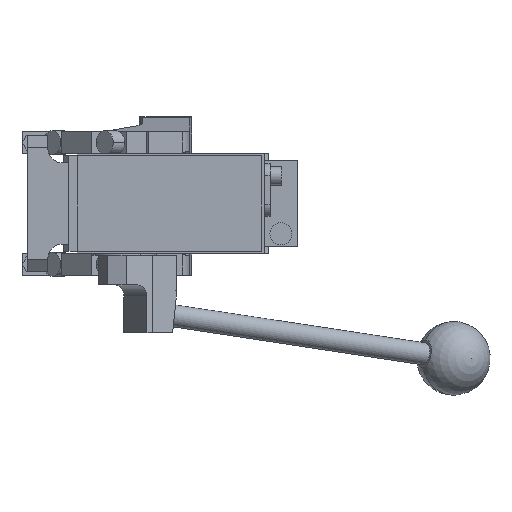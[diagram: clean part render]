
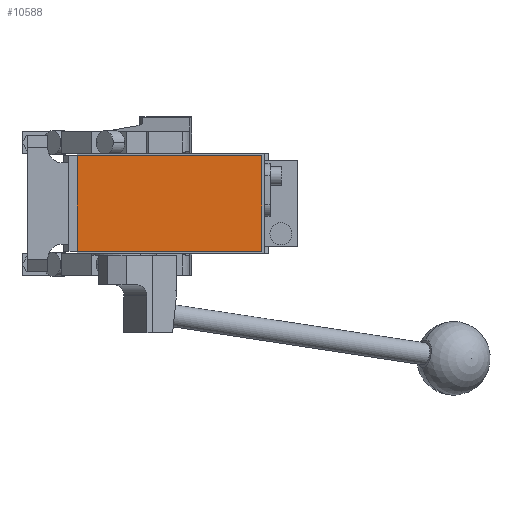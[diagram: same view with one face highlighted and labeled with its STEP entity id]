
A CAD part, front view. The second image highlights one B-rep face of the part: STEP entity #10588.
In plain terms, the highlighted planar face has unit normal (0, -1, 0).
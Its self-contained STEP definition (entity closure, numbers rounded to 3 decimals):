
#1 = LINE ( 'NONE', #7410, #10781 ) ;
#31 = CARTESIAN_POINT ( 'NONE',  ( 0., -286.5, 0. ) ) ;
#116 = VECTOR ( 'NONE', #11078, 1000. ) ;
#945 = EDGE_CURVE ( 'NONE', #11256, #15213, #5165, .T. ) ;
#1330 = VECTOR ( 'NONE', #8565, 1000. ) ;
#2826 = ORIENTED_EDGE ( 'NONE', *, *, #12686, .T. ) ;
#4226 = VECTOR ( 'NONE', #7878, 1000. ) ;
#5058 = DIRECTION ( 'NONE',  ( 0., 0., -1. ) ) ;
#5065 = AXIS2_PLACEMENT_3D ( 'NONE', #31, #8596, #5058 ) ;
#5165 = LINE ( 'NONE', #15079, #4226 ) ;
#6181 = VERTEX_POINT ( 'NONE', #12114 ) ;
#6433 = VERTEX_POINT ( 'NONE', #8320 ) ;
#7410 = CARTESIAN_POINT ( 'NONE',  ( -19., -286.5, -26. ) ) ;
#7438 = FACE_OUTER_BOUND ( 'NONE', #15881, .T. ) ;
#7878 = DIRECTION ( 'NONE',  ( 0., 0., -1. ) ) ;
#8320 = CARTESIAN_POINT ( 'NONE',  ( 81., -286.5, -26. ) ) ;
#8565 = DIRECTION ( 'NONE',  ( 0., 0., 1. ) ) ;
#8596 = DIRECTION ( 'NONE',  ( 0., -1., 0. ) ) ;
#8642 = EDGE_CURVE ( 'NONE', #15213, #6433, #1, .T. ) ;
#9640 = CARTESIAN_POINT ( 'NONE',  ( 81., -286.5, 26. ) ) ;
#9801 = ORIENTED_EDGE ( 'NONE', *, *, #8642, .T. ) ;
#10095 = LINE ( 'NONE', #16252, #116 ) ;
#10588 = ADVANCED_FACE ( 'NONE', ( #7438 ), #14909, .T. ) ;
#10781 = VECTOR ( 'NONE', #11176, 1000. ) ;
#11078 = DIRECTION ( 'NONE',  ( -1., 0., 0. ) ) ;
#11176 = DIRECTION ( 'NONE',  ( 1., 0., 0. ) ) ;
#11256 = VERTEX_POINT ( 'NONE', #16174 ) ;
#12114 = CARTESIAN_POINT ( 'NONE',  ( 81., -286.5, 26. ) ) ;
#12206 = EDGE_CURVE ( 'NONE', #6181, #11256, #10095, .T. ) ;
#12686 = EDGE_CURVE ( 'NONE', #6433, #6181, #13321, .T. ) ;
#12721 = ORIENTED_EDGE ( 'NONE', *, *, #945, .T. ) ;
#13208 = ORIENTED_EDGE ( 'NONE', *, *, #12206, .T. ) ;
#13321 = LINE ( 'NONE', #9640, #1330 ) ;
#13566 = CARTESIAN_POINT ( 'NONE',  ( -19., -286.5, -26. ) ) ;
#14909 = PLANE ( 'NONE',  #5065 ) ;
#15079 = CARTESIAN_POINT ( 'NONE',  ( -19., -286.5, 26. ) ) ;
#15213 = VERTEX_POINT ( 'NONE', #13566 ) ;
#15881 = EDGE_LOOP ( 'NONE', ( #12721, #9801, #2826, #13208 ) ) ;
#16174 = CARTESIAN_POINT ( 'NONE',  ( -19., -286.5, 26. ) ) ;
#16252 = CARTESIAN_POINT ( 'NONE',  ( -19., -286.5, 26. ) ) ;
